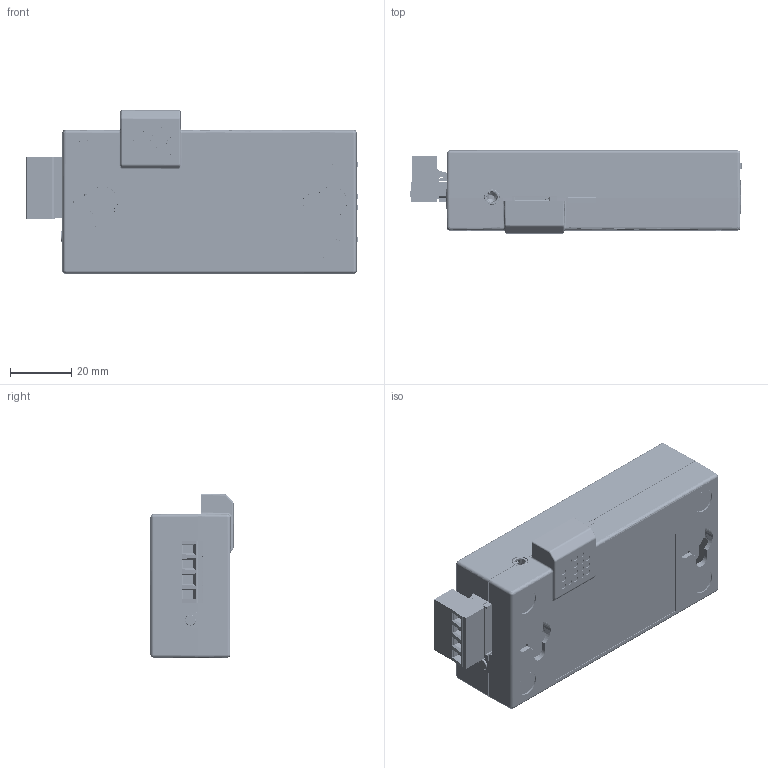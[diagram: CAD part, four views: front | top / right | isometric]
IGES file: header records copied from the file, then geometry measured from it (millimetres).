
Start section: SolidWorks IGES file using analytic representation for surfaces
Global section: file name: C:\Users\larsvanderpluijm\Downloads\DiGidot C1.IGS; native system: SolidWorks 2025; preprocessor: SolidWorks 2025; author: larsvanderpluijm; date: 250527.125829; units: millimetre
Bounding box: 108.73 x 27.2 x 53.76 mm (x, y, z)
Surface area: 63463 mm2 (no closed solid volume)
Topology: 0 solids, 0 shells, 5229 faces, 40556 edges, 40538 vertices
Faces by surface type: bspline 5229
